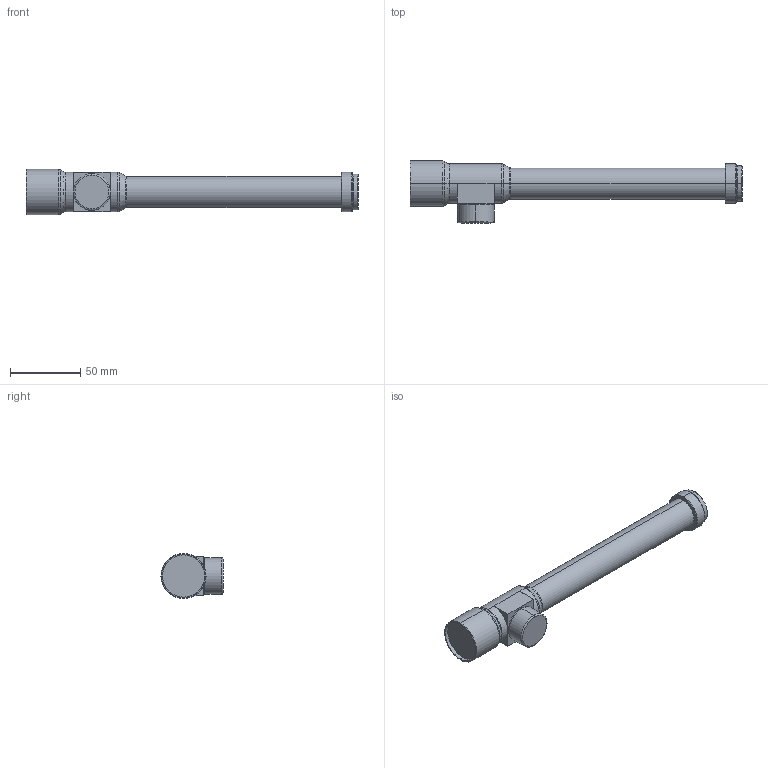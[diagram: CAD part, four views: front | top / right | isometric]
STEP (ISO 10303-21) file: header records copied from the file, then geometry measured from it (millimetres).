
FILE_DESCRIPTION (( 'STEP AP203' ), '1' );
FILE_NAME ('WWH80-108CTV2.STEP', '2020-09-14T06:09:36', ( 'Windows User' ), ( 'P R C' ), 'SwSTEP 2.0', 'SolidWorks 2017', '' );
FILE_SCHEMA (( 'CONFIG_CONTROL_DESIGN' ));
Length unit declared in the file: millimetre
Products named in the file (1): WWH80-108CTV2
Bounding box: 235.6 x 44 x 32 mm (x, y, z)
Volume: 120597.7 mm3; surface area: 21758.3 mm2
Topology: 1 solids, 1 shells, 56 faces, 112 edges, 64 vertices
Faces by surface type: cylinder 19, plane 15, cone 12, torus 10
Entity records: 1525 total; most frequent: DIRECTION 294, CARTESIAN_POINT 233, ORIENTED_EDGE 224, AXIS2_PLACEMENT_3D 125, EDGE_CURVE 112, CIRCLE 68, VERTEX_POINT 64, EDGE_LOOP 62
